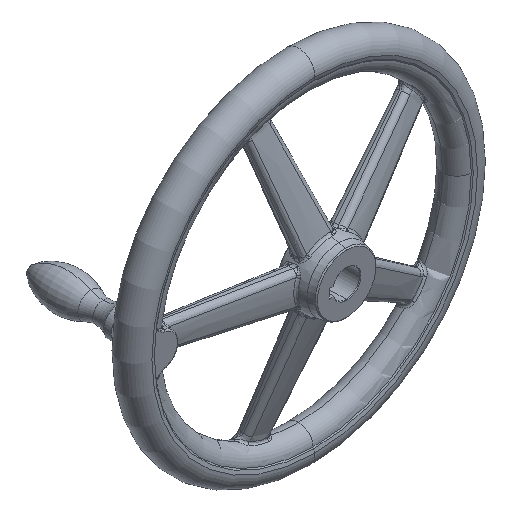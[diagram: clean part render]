
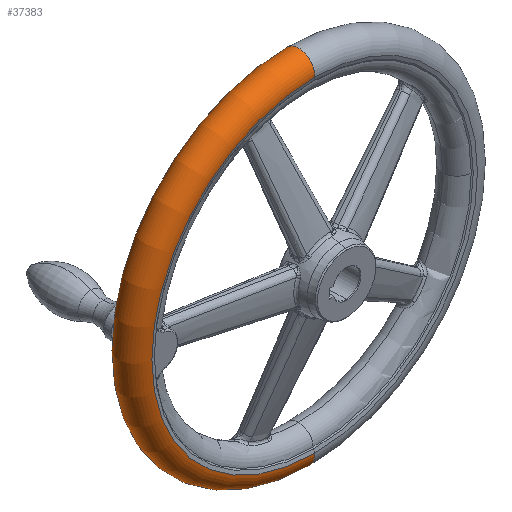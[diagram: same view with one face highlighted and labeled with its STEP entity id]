
A CAD part, isometric view. The second image highlights one B-rep face of the part: STEP entity #37383.
In plain terms, the highlighted toroidal (fillet/blend) face has major radius 143.462 mm and minor radius 14.039 mm.
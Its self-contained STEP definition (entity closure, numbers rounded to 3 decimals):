
#15081 = FACE_OUTER_BOUND ( 'NONE', #37400, .T. ) ;
#15113 = DIRECTION ( 'NONE',  ( 0., 0., -1. ) ) ;
#15114 = DIRECTION ( 'NONE',  ( 0., -1., 0. ) ) ;
#15115 = CARTESIAN_POINT ( 'NONE',  ( 0., 42., 0. ) ) ;
#15116 = AXIS2_PLACEMENT_3D ( 'NONE', #15115, #15114, #15113 ) ;
#15117 = TOROIDAL_SURFACE ( 'NONE', #15116, 143.462, 14.038 ) ;
#23749 = CARTESIAN_POINT ( 'NONE',  ( 0., 42., -143.462 ) ) ;
#23758 = CIRCLE ( 'NONE', #23812, 14.038 ) ;
#23771 = DIRECTION ( 'NONE',  ( 0., 0., 1. ) ) ;
#23772 = DIRECTION ( 'NONE',  ( -1., 0., 0. ) ) ;
#23773 = AXIS2_PLACEMENT_3D ( 'NONE', #23749, #23772, #23771 ) ;
#23777 = CIRCLE ( 'NONE', #23773, 14.038 ) ;
#23809 = DIRECTION ( 'NONE',  ( 0., 0., -1. ) ) ;
#23810 = DIRECTION ( 'NONE',  ( 1., 0., 0. ) ) ;
#23811 = CARTESIAN_POINT ( 'NONE',  ( 0., 42., 143.462 ) ) ;
#23812 = AXIS2_PLACEMENT_3D ( 'NONE', #23811, #23810, #23809 ) ;
#23875 = AXIS2_PLACEMENT_3D ( 'NONE', #23876, #23896, #23931 ) ;
#23876 = CARTESIAN_POINT ( 'NONE',  ( 0., 28., 0. ) ) ;
#23879 = CIRCLE ( 'NONE', #23875, 142.423 ) ;
#23896 = DIRECTION ( 'NONE',  ( 0., -1., 0. ) ) ;
#23913 = CARTESIAN_POINT ( 'NONE',  ( 0., 28., -142.423 ) ) ;
#23931 = DIRECTION ( 'NONE',  ( 0., 0., -1. ) ) ;
#23945 = CARTESIAN_POINT ( 'NONE',  ( 0., 28., 142.423 ) ) ;
#29354 = CIRCLE ( 'NONE', #29409, 142.423 ) ;
#29396 = DIRECTION ( 'NONE',  ( 0., 0., -1. ) ) ;
#29397 = DIRECTION ( 'NONE',  ( 0., -1., 0. ) ) ;
#29398 = CARTESIAN_POINT ( 'NONE',  ( 0., 56., 0. ) ) ;
#29409 = AXIS2_PLACEMENT_3D ( 'NONE', #29398, #29397, #29396 ) ;
#29644 = CARTESIAN_POINT ( 'NONE',  ( 0., 56., 142.423 ) ) ;
#29657 = CARTESIAN_POINT ( 'NONE',  ( 0., 56., -142.423 ) ) ;
#37373 = ORIENTED_EDGE ( 'NONE', *, *, #39349, .T. ) ;
#37383 = ADVANCED_FACE ( 'NONE', ( #15081 ), #15117, .T. ) ;
#37400 = EDGE_LOOP ( 'NONE', ( #37450, #37437, #37373, #37438 ) ) ;
#37437 = ORIENTED_EDGE ( 'NONE', *, *, #51424, .T. ) ;
#37438 = ORIENTED_EDGE ( 'NONE', *, *, #39573, .F. ) ;
#37450 = ORIENTED_EDGE ( 'NONE', *, *, #39384, .F. ) ;
#39349 = EDGE_CURVE ( 'NONE', #51513, #39587, #23777, .T. ) ;
#39384 = EDGE_CURVE ( 'NONE', #51507, #39615, #23758, .T. ) ;
#39573 = EDGE_CURVE ( 'NONE', #39615, #39587, #23879, .T. ) ;
#39587 = VERTEX_POINT ( 'NONE', #23913 ) ;
#39615 = VERTEX_POINT ( 'NONE', #23945 ) ;
#51424 = EDGE_CURVE ( 'NONE', #51507, #51513, #29354, .T. ) ;
#51507 = VERTEX_POINT ( 'NONE', #29644 ) ;
#51513 = VERTEX_POINT ( 'NONE', #29657 ) ;
